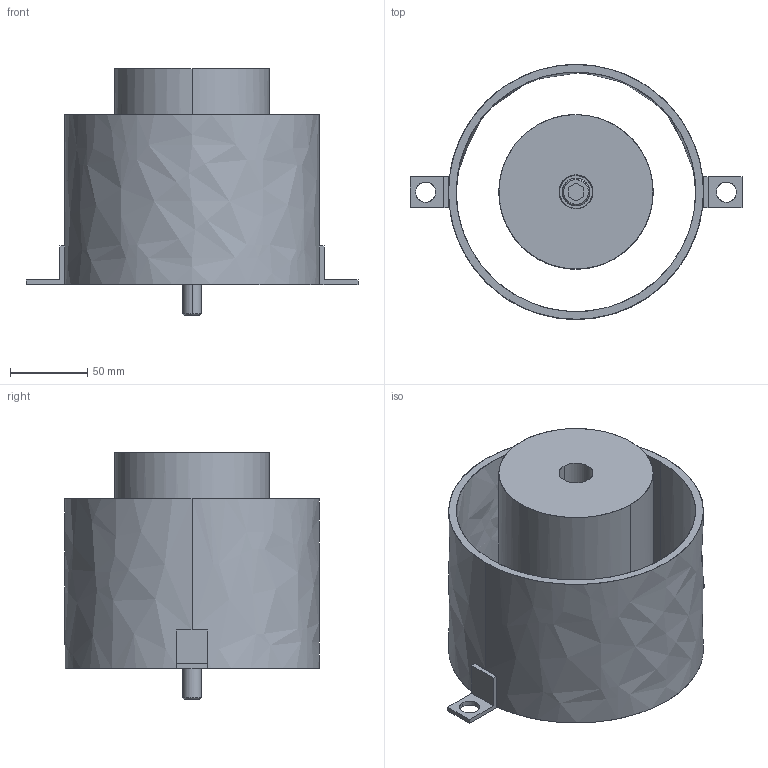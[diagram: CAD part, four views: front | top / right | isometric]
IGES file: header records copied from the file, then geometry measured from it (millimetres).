
Global section: file name: E:\UnigraphicsGraphicData\MISUMI_PRESS-PARTS\IGES\3d_phbt100-140-110-r_07063_r00.igs; native system: NX V5.0; preprocessor: UGS NX IGES V5.0; author: MISUMI; date: 20110105.162246; units: millimetre
Bounding box: 215.2 x 165.2 x 160 mm (x, y, z)
Surface area: 196272.5 mm2 (no closed solid volume)
Topology: 0 solids, 0 shells, 64 faces, 472 edges, 472 vertices
Faces by surface type: bspline 64
